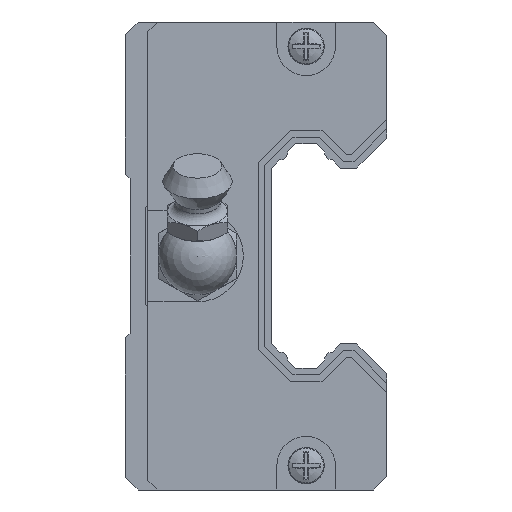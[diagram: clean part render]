
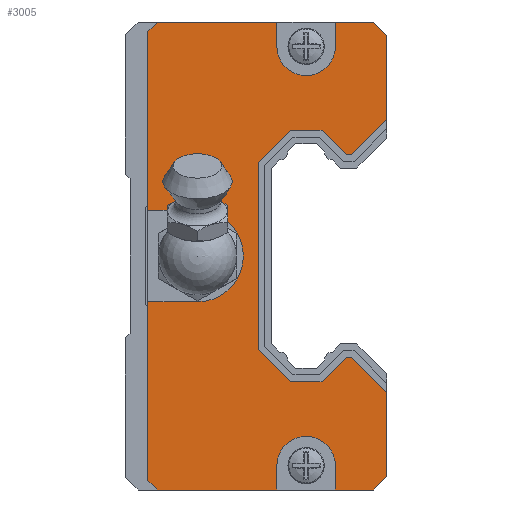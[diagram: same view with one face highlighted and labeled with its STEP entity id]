
A CAD part, left-side view. The second image highlights one B-rep face of the part: STEP entity #3005.
In plain terms, the highlighted planar face has unit normal (-1, 0, 0) as drawn and (1, 0, 0) by its records, which use the part's own axes.
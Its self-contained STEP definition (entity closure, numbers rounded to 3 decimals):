
#2894 = VERTEX_POINT('',#2895);
#2895 = CARTESIAN_POINT('',(3.,6.2,14.027));
#2901 = EDGE_CURVE('',#2902,#2894,#2904,.T.);
#2902 = VERTEX_POINT('',#2903);
#2903 = CARTESIAN_POINT('',(3.,6.2,22.66));
#2904 = LINE('',#2905,#2906);
#2905 = CARTESIAN_POINT('',(3.,6.2,22.66));
#2906 = VECTOR('',#2907,1.);
#2907 = DIRECTION('',(0.,0.,-1.));
#2980 = VERTEX_POINT('',#2981);
#2981 = CARTESIAN_POINT('',(3.,6.2,-22.66));
#2987 = EDGE_CURVE('',#2988,#2980,#2990,.T.);
#2988 = VERTEX_POINT('',#2989);
#2989 = CARTESIAN_POINT('',(3.,6.2,-14.027));
#2990 = LINE('',#2991,#2992);
#2991 = CARTESIAN_POINT('',(3.,6.2,22.66));
#2992 = VECTOR('',#2993,1.);
#2993 = DIRECTION('',(0.,0.,-1.));
#3005 = ADVANCED_FACE('',(#3006),#3249,.T.);
#3006 = FACE_BOUND('',#3007,.T.);
#3007 = EDGE_LOOP('',(#3008,#3016,#3024,#3032,#3040,#3048,#3056,#3064,
    #3072,#3080,#3088,#3094,#3095,#3103,#3111,#3119,#3128,#3136,#3144,
    #3152,#3160,#3168,#3177,#3185,#3193,#3201,#3209,#3217,#3226,#3234,
    #3242,#3248));
#3008 = ORIENTED_EDGE('',*,*,#3009,.F.);
#3009 = EDGE_CURVE('',#3010,#2894,#3012,.T.);
#3010 = VERTEX_POINT('',#3011);
#3011 = CARTESIAN_POINT('',(3.,9.825,10.402));
#3012 = LINE('',#3013,#3014);
#3013 = CARTESIAN_POINT('',(3.,9.825,10.402));
#3014 = VECTOR('',#3015,1.);
#3015 = DIRECTION('',(0.,-0.707,0.707));
#3016 = ORIENTED_EDGE('',*,*,#3017,.F.);
#3017 = EDGE_CURVE('',#3018,#3010,#3020,.T.);
#3018 = VERTEX_POINT('',#3019);
#3019 = CARTESIAN_POINT('',(3.,10.348,10.402));
#3020 = LINE('',#3021,#3022);
#3021 = CARTESIAN_POINT('',(3.,10.348,10.402));
#3022 = VECTOR('',#3023,1.);
#3023 = DIRECTION('',(0.,-1.,0.));
#3024 = ORIENTED_EDGE('',*,*,#3025,.F.);
#3025 = EDGE_CURVE('',#3026,#3018,#3028,.T.);
#3026 = VERTEX_POINT('',#3027);
#3027 = CARTESIAN_POINT('',(3.,12.826,12.88));
#3028 = LINE('',#3029,#3030);
#3029 = CARTESIAN_POINT('',(3.,12.826,12.88));
#3030 = VECTOR('',#3031,1.);
#3031 = DIRECTION('',(0.,-0.707,-0.707));
#3032 = ORIENTED_EDGE('',*,*,#3033,.F.);
#3033 = EDGE_CURVE('',#3034,#3026,#3036,.T.);
#3034 = VERTEX_POINT('',#3035);
#3035 = CARTESIAN_POINT('',(3.,16.094,12.88));
#3036 = LINE('',#3037,#3038);
#3037 = CARTESIAN_POINT('',(3.,16.094,12.88));
#3038 = VECTOR('',#3039,1.);
#3039 = DIRECTION('',(0.,-1.,0.));
#3040 = ORIENTED_EDGE('',*,*,#3041,.F.);
#3041 = EDGE_CURVE('',#3042,#3034,#3044,.T.);
#3042 = VERTEX_POINT('',#3043);
#3043 = CARTESIAN_POINT('',(3.,19.38,9.594));
#3044 = LINE('',#3045,#3046);
#3045 = CARTESIAN_POINT('',(3.,19.38,9.594));
#3046 = VECTOR('',#3047,1.);
#3047 = DIRECTION('',(0.,-0.707,0.707));
#3048 = ORIENTED_EDGE('',*,*,#3049,.F.);
#3049 = EDGE_CURVE('',#3050,#3042,#3052,.T.);
#3050 = VERTEX_POINT('',#3051);
#3051 = CARTESIAN_POINT('',(3.,19.38,-9.594));
#3052 = LINE('',#3053,#3054);
#3053 = CARTESIAN_POINT('',(3.,19.38,-9.594));
#3054 = VECTOR('',#3055,1.);
#3055 = DIRECTION('',(0.,0.,1.));
#3056 = ORIENTED_EDGE('',*,*,#3057,.F.);
#3057 = EDGE_CURVE('',#3058,#3050,#3060,.T.);
#3058 = VERTEX_POINT('',#3059);
#3059 = CARTESIAN_POINT('',(3.,16.094,-12.88));
#3060 = LINE('',#3061,#3062);
#3061 = CARTESIAN_POINT('',(3.,16.094,-12.88));
#3062 = VECTOR('',#3063,1.);
#3063 = DIRECTION('',(0.,0.707,0.707));
#3064 = ORIENTED_EDGE('',*,*,#3065,.F.);
#3065 = EDGE_CURVE('',#3066,#3058,#3068,.T.);
#3066 = VERTEX_POINT('',#3067);
#3067 = CARTESIAN_POINT('',(3.,12.826,-12.88));
#3068 = LINE('',#3069,#3070);
#3069 = CARTESIAN_POINT('',(3.,12.826,-12.88));
#3070 = VECTOR('',#3071,1.);
#3071 = DIRECTION('',(0.,1.,0.));
#3072 = ORIENTED_EDGE('',*,*,#3073,.F.);
#3073 = EDGE_CURVE('',#3074,#3066,#3076,.T.);
#3074 = VERTEX_POINT('',#3075);
#3075 = CARTESIAN_POINT('',(3.,10.348,-10.402));
#3076 = LINE('',#3077,#3078);
#3077 = CARTESIAN_POINT('',(3.,10.348,-10.402));
#3078 = VECTOR('',#3079,1.);
#3079 = DIRECTION('',(0.,0.707,-0.707));
#3080 = ORIENTED_EDGE('',*,*,#3081,.F.);
#3081 = EDGE_CURVE('',#3082,#3074,#3084,.T.);
#3082 = VERTEX_POINT('',#3083);
#3083 = CARTESIAN_POINT('',(3.,9.825,-10.402));
#3084 = LINE('',#3085,#3086);
#3085 = CARTESIAN_POINT('',(3.,9.825,-10.402));
#3086 = VECTOR('',#3087,1.);
#3087 = DIRECTION('',(0.,1.,0.));
#3088 = ORIENTED_EDGE('',*,*,#3089,.F.);
#3089 = EDGE_CURVE('',#2988,#3082,#3090,.T.);
#3090 = LINE('',#3091,#3092);
#3091 = CARTESIAN_POINT('',(3.,6.2,-14.027));
#3092 = VECTOR('',#3093,1.);
#3093 = DIRECTION('',(0.,0.707,0.707));
#3094 = ORIENTED_EDGE('',*,*,#2987,.T.);
#3095 = ORIENTED_EDGE('',*,*,#3096,.T.);
#3096 = EDGE_CURVE('',#2980,#3097,#3099,.T.);
#3097 = VERTEX_POINT('',#3098);
#3098 = CARTESIAN_POINT('',(3.,7.54,-24.));
#3099 = LINE('',#3100,#3101);
#3100 = CARTESIAN_POINT('',(3.,6.2,-22.66));
#3101 = VECTOR('',#3102,1.);
#3102 = DIRECTION('',(0.,0.707,-0.707));
#3103 = ORIENTED_EDGE('',*,*,#3104,.T.);
#3104 = EDGE_CURVE('',#3097,#3105,#3107,.T.);
#3105 = VERTEX_POINT('',#3106);
#3106 = CARTESIAN_POINT('',(3.,11.46,-24.));
#3107 = LINE('',#3108,#3109);
#3108 = CARTESIAN_POINT('',(3.,7.54,-24.));
#3109 = VECTOR('',#3110,1.);
#3110 = DIRECTION('',(0.,1.,0.));
#3111 = ORIENTED_EDGE('',*,*,#3112,.F.);
#3112 = EDGE_CURVE('',#3113,#3105,#3115,.T.);
#3113 = VERTEX_POINT('',#3114);
#3114 = CARTESIAN_POINT('',(3.,11.46,-21.5));
#3115 = LINE('',#3116,#3117);
#3116 = CARTESIAN_POINT('',(3.,11.46,-21.5));
#3117 = VECTOR('',#3118,1.);
#3118 = DIRECTION('',(0.,0.,-1.));
#3119 = ORIENTED_EDGE('',*,*,#3120,.F.);
#3120 = EDGE_CURVE('',#3121,#3113,#3123,.T.);
#3121 = VERTEX_POINT('',#3122);
#3122 = CARTESIAN_POINT('',(3.,17.46,-21.5));
#3123 = CIRCLE('',#3124,3.);
#3124 = AXIS2_PLACEMENT_3D('',#3125,#3126,#3127);
#3125 = CARTESIAN_POINT('',(3.,14.46,-21.5));
#3126 = DIRECTION('',(1.,0.,0.));
#3127 = DIRECTION('',(0.,0.,-1.));
#3128 = ORIENTED_EDGE('',*,*,#3129,.F.);
#3129 = EDGE_CURVE('',#3130,#3121,#3132,.T.);
#3130 = VERTEX_POINT('',#3131);
#3131 = CARTESIAN_POINT('',(3.,17.46,-24.));
#3132 = LINE('',#3133,#3134);
#3133 = CARTESIAN_POINT('',(3.,17.46,0.));
#3134 = VECTOR('',#3135,1.);
#3135 = DIRECTION('',(0.,0.,1.));
#3136 = ORIENTED_EDGE('',*,*,#3137,.T.);
#3137 = EDGE_CURVE('',#3130,#3138,#3140,.T.);
#3138 = VERTEX_POINT('',#3139);
#3139 = CARTESIAN_POINT('',(3.,29.7,-24.));
#3140 = LINE('',#3141,#3142);
#3141 = CARTESIAN_POINT('',(3.,7.54,-24.));
#3142 = VECTOR('',#3143,1.);
#3143 = DIRECTION('',(0.,1.,0.));
#3144 = ORIENTED_EDGE('',*,*,#3145,.T.);
#3145 = EDGE_CURVE('',#3138,#3146,#3148,.T.);
#3146 = VERTEX_POINT('',#3147);
#3147 = CARTESIAN_POINT('',(3.,30.7,-23.));
#3148 = LINE('',#3149,#3150);
#3149 = CARTESIAN_POINT('',(3.,29.7,-24.));
#3150 = VECTOR('',#3151,1.);
#3151 = DIRECTION('',(0.,0.707,0.707));
#3152 = ORIENTED_EDGE('',*,*,#3153,.T.);
#3153 = EDGE_CURVE('',#3146,#3154,#3156,.T.);
#3154 = VERTEX_POINT('',#3155);
#3155 = CARTESIAN_POINT('',(3.,30.7,-4.7));
#3156 = LINE('',#3157,#3158);
#3157 = CARTESIAN_POINT('',(3.,30.7,-23.));
#3158 = VECTOR('',#3159,1.);
#3159 = DIRECTION('',(0.,0.,1.));
#3160 = ORIENTED_EDGE('',*,*,#3161,.F.);
#3161 = EDGE_CURVE('',#3162,#3154,#3164,.T.);
#3162 = VERTEX_POINT('',#3163);
#3163 = CARTESIAN_POINT('',(3.,25.6,-4.7));
#3164 = LINE('',#3165,#3166);
#3165 = CARTESIAN_POINT('',(3.,25.6,-4.7));
#3166 = VECTOR('',#3167,1.);
#3167 = DIRECTION('',(0.,1.,0.));
#3168 = ORIENTED_EDGE('',*,*,#3169,.F.);
#3169 = EDGE_CURVE('',#3170,#3162,#3172,.T.);
#3170 = VERTEX_POINT('',#3171);
#3171 = CARTESIAN_POINT('',(3.,25.6,4.7));
#3172 = CIRCLE('',#3173,4.7);
#3173 = AXIS2_PLACEMENT_3D('',#3174,#3175,#3176);
#3174 = CARTESIAN_POINT('',(3.,25.6,0.));
#3175 = DIRECTION('',(1.,0.,0.));
#3176 = DIRECTION('',(0.,0.,-1.));
#3177 = ORIENTED_EDGE('',*,*,#3178,.F.);
#3178 = EDGE_CURVE('',#3179,#3170,#3181,.T.);
#3179 = VERTEX_POINT('',#3180);
#3180 = CARTESIAN_POINT('',(3.,30.7,4.7));
#3181 = LINE('',#3182,#3183);
#3182 = CARTESIAN_POINT('',(3.,30.7,4.7));
#3183 = VECTOR('',#3184,1.);
#3184 = DIRECTION('',(0.,-1.,0.));
#3185 = ORIENTED_EDGE('',*,*,#3186,.T.);
#3186 = EDGE_CURVE('',#3179,#3187,#3189,.T.);
#3187 = VERTEX_POINT('',#3188);
#3188 = CARTESIAN_POINT('',(3.,30.7,23.));
#3189 = LINE('',#3190,#3191);
#3190 = CARTESIAN_POINT('',(3.,30.7,-23.));
#3191 = VECTOR('',#3192,1.);
#3192 = DIRECTION('',(0.,0.,1.));
#3193 = ORIENTED_EDGE('',*,*,#3194,.T.);
#3194 = EDGE_CURVE('',#3187,#3195,#3197,.T.);
#3195 = VERTEX_POINT('',#3196);
#3196 = CARTESIAN_POINT('',(3.,29.7,24.));
#3197 = LINE('',#3198,#3199);
#3198 = CARTESIAN_POINT('',(3.,30.7,23.));
#3199 = VECTOR('',#3200,1.);
#3200 = DIRECTION('',(0.,-0.707,0.707));
#3201 = ORIENTED_EDGE('',*,*,#3202,.T.);
#3202 = EDGE_CURVE('',#3195,#3203,#3205,.T.);
#3203 = VERTEX_POINT('',#3204);
#3204 = CARTESIAN_POINT('',(3.,17.46,24.));
#3205 = LINE('',#3206,#3207);
#3206 = CARTESIAN_POINT('',(3.,29.7,24.));
#3207 = VECTOR('',#3208,1.);
#3208 = DIRECTION('',(0.,-1.,0.));
#3209 = ORIENTED_EDGE('',*,*,#3210,.F.);
#3210 = EDGE_CURVE('',#3211,#3203,#3213,.T.);
#3211 = VERTEX_POINT('',#3212);
#3212 = CARTESIAN_POINT('',(3.,17.46,21.5));
#3213 = LINE('',#3214,#3215);
#3214 = CARTESIAN_POINT('',(3.,17.46,21.5));
#3215 = VECTOR('',#3216,1.);
#3216 = DIRECTION('',(0.,0.,1.));
#3217 = ORIENTED_EDGE('',*,*,#3218,.F.);
#3218 = EDGE_CURVE('',#3219,#3211,#3221,.T.);
#3219 = VERTEX_POINT('',#3220);
#3220 = CARTESIAN_POINT('',(3.,11.46,21.5));
#3221 = CIRCLE('',#3222,3.);
#3222 = AXIS2_PLACEMENT_3D('',#3223,#3224,#3225);
#3223 = CARTESIAN_POINT('',(3.,14.46,21.5));
#3224 = DIRECTION('',(1.,0.,0.));
#3225 = DIRECTION('',(0.,0.,-1.));
#3226 = ORIENTED_EDGE('',*,*,#3227,.F.);
#3227 = EDGE_CURVE('',#3228,#3219,#3230,.T.);
#3228 = VERTEX_POINT('',#3229);
#3229 = CARTESIAN_POINT('',(3.,11.46,24.));
#3230 = LINE('',#3231,#3232);
#3231 = CARTESIAN_POINT('',(3.,11.46,24.));
#3232 = VECTOR('',#3233,1.);
#3233 = DIRECTION('',(0.,0.,-1.));
#3234 = ORIENTED_EDGE('',*,*,#3235,.T.);
#3235 = EDGE_CURVE('',#3228,#3236,#3238,.T.);
#3236 = VERTEX_POINT('',#3237);
#3237 = CARTESIAN_POINT('',(3.,7.54,24.));
#3238 = LINE('',#3239,#3240);
#3239 = CARTESIAN_POINT('',(3.,29.7,24.));
#3240 = VECTOR('',#3241,1.);
#3241 = DIRECTION('',(0.,-1.,0.));
#3242 = ORIENTED_EDGE('',*,*,#3243,.T.);
#3243 = EDGE_CURVE('',#3236,#2902,#3244,.T.);
#3244 = LINE('',#3245,#3246);
#3245 = CARTESIAN_POINT('',(3.,7.54,24.));
#3246 = VECTOR('',#3247,1.);
#3247 = DIRECTION('',(0.,-0.707,-0.707));
#3248 = ORIENTED_EDGE('',*,*,#2901,.T.);
#3249 = PLANE('',#3250);
#3250 = AXIS2_PLACEMENT_3D('',#3251,#3252,#3253);
#3251 = CARTESIAN_POINT('',(3.,0.,0.));
#3252 = DIRECTION('',(1.,0.,0.));
#3253 = DIRECTION('',(0.,0.,1.));
